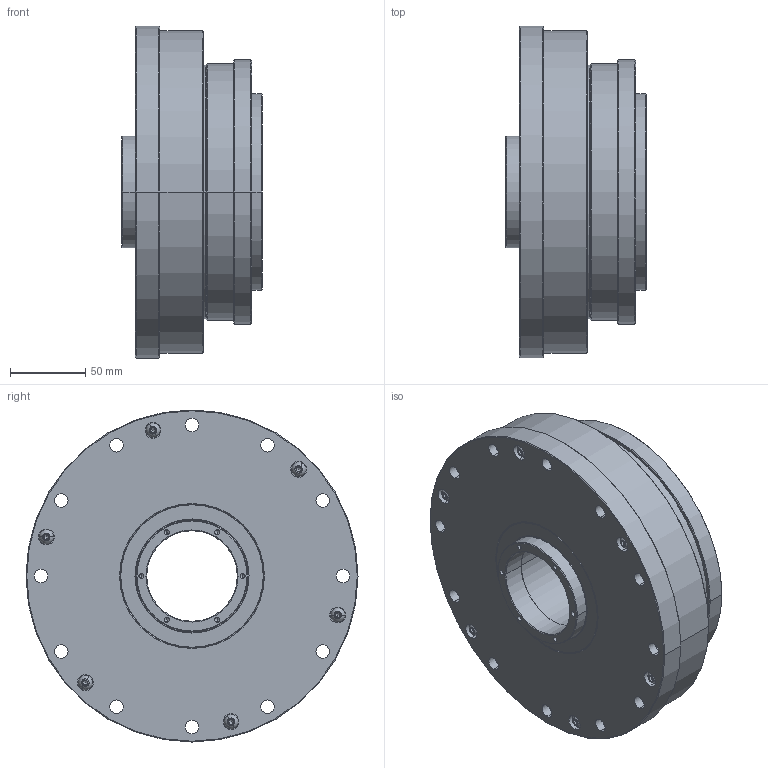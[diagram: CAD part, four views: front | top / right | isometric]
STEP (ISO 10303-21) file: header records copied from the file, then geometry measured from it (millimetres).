
FILE_DESCRIPTION (( 'STEP AP203' ), '1' );
FILE_NAME ('FHG-50-XXX-AH.STEP', '2019-07-31T09:10:27', ( '' ), ( '' ), 'SwSTEP 2.0', 'SolidWorks 2016', '' );
FILE_SCHEMA (( 'CONFIG_CONTROL_DESIGN' ));
Length unit declared in the file: millimetre
Products named in the file (1): FHG-50-XXX-AH
Bounding box: 93 x 220 x 220 mm (x, y, z)
Volume: 1570919.8 mm3; surface area: 571362.6 mm2
Topology: 24 solids, 24 shells, 1027 faces, 2340 edges, 1402 vertices
Faces by surface type: cylinder 474, cone 270, plane 215, torus 56, sphere 12
Entity records: 29165 total; most frequent: DIRECTION 5500, CARTESIAN_POINT 5136, ORIENTED_EDGE 4512, AXIS2_PLACEMENT_3D 2306, EDGE_CURVE 2256, VERTEX_POINT 1402, EDGE_LOOP 1364, CIRCLE 1278
